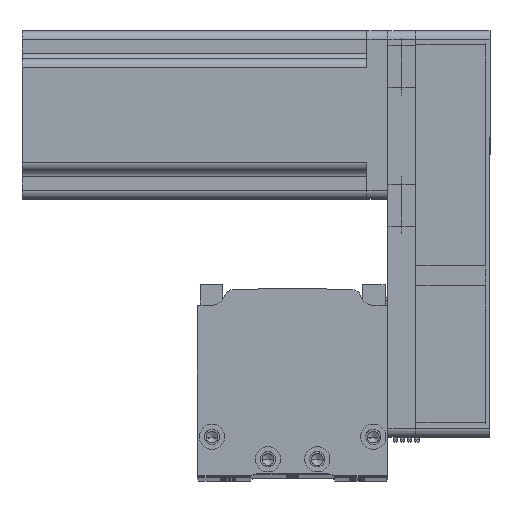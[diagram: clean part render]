
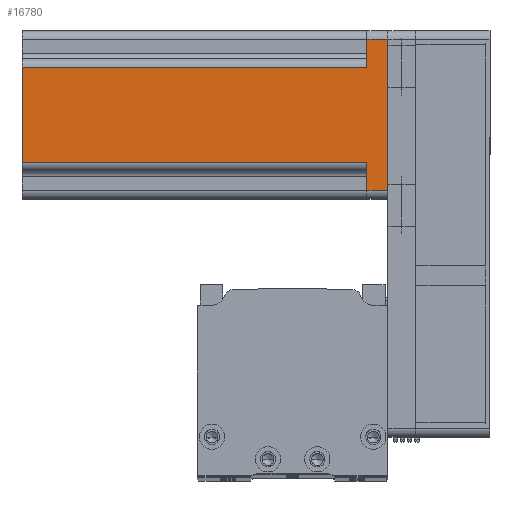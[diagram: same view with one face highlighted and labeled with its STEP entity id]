
A CAD part, top view. The second image highlights one B-rep face of the part: STEP entity #16780.
In plain terms, the highlighted planar face has unit normal (0, 0, 1) as drawn and (0, -1, 0) by its records, which use the part's own axes.
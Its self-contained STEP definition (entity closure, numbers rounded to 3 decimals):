
#257 = EDGE_CURVE ( 'NONE', #21998, #36566, #22057, .T. ) ;
#1592 = LINE ( 'NONE', #21651, #31146 ) ;
#2340 = VECTOR ( 'NONE', #36564, 1000. ) ;
#2624 = ORIENTED_EDGE ( 'NONE', *, *, #27241, .T. ) ;
#3370 = VERTEX_POINT ( 'NONE', #20768 ) ;
#4087 = LINE ( 'NONE', #12989, #18099 ) ;
#4634 = VECTOR ( 'NONE', #40220, 1000. ) ;
#4841 = LINE ( 'NONE', #5375, #24602 ) ;
#5375 = CARTESIAN_POINT ( 'NONE',  ( 27., -30., 130.7 ) ) ;
#5923 = VECTOR ( 'NONE', #44656, 1000. ) ;
#6303 = ORIENTED_EDGE ( 'NONE', *, *, #44527, .T. ) ;
#6307 = VERTEX_POINT ( 'NONE', #7003 ) ;
#6370 = CARTESIAN_POINT ( 'NONE',  ( 30., -30., 130.7 ) ) ;
#6379 = VERTEX_POINT ( 'NONE', #14973 ) ;
#7003 = CARTESIAN_POINT ( 'NONE',  ( -17., -30., 130.7 ) ) ;
#8046 = VECTOR ( 'NONE', #24655, 1000. ) ;
#9403 = EDGE_CURVE ( 'NONE', #45607, #3370, #24395, .T. ) ;
#10631 = CARTESIAN_POINT ( 'NONE',  ( 30., -30., 0. ) ) ;
#10667 = CARTESIAN_POINT ( 'NONE',  ( 17., -30., 130.7 ) ) ;
#11648 = VERTEX_POINT ( 'NONE', #29465 ) ;
#12989 = CARTESIAN_POINT ( 'NONE',  ( -20., -30., 7.5 ) ) ;
#13369 = LINE ( 'NONE', #6370, #41711 ) ;
#13542 = FACE_OUTER_BOUND ( 'NONE', #25306, .T. ) ;
#13666 = ORIENTED_EDGE ( 'NONE', *, *, #46544, .T. ) ;
#14327 = VERTEX_POINT ( 'NONE', #15039 ) ;
#14534 = ORIENTED_EDGE ( 'NONE', *, *, #29203, .F. ) ;
#14973 = CARTESIAN_POINT ( 'NONE',  ( 27., -30., 7.5 ) ) ;
#15039 = CARTESIAN_POINT ( 'NONE',  ( -27., -30., 7.5 ) ) ;
#16776 = DIRECTION ( 'NONE',  ( 0., 1., 0. ) ) ;
#16780 = ADVANCED_FACE ( 'NONE', ( #13542 ), #31123, .F. ) ;
#18099 = VECTOR ( 'NONE', #46435, 1000. ) ;
#19114 = EDGE_CURVE ( 'NONE', #14327, #11648, #4087, .T. ) ;
#20422 = ORIENTED_EDGE ( 'NONE', *, *, #9403, .T. ) ;
#20768 = CARTESIAN_POINT ( 'NONE',  ( 27., -30., 0. ) ) ;
#20930 = CARTESIAN_POINT ( 'NONE',  ( 20., -30., 7.5 ) ) ;
#21262 = ORIENTED_EDGE ( 'NONE', *, *, #19114, .F. ) ;
#21651 = CARTESIAN_POINT ( 'NONE',  ( -17., -30., 130.7 ) ) ;
#21998 = VERTEX_POINT ( 'NONE', #43133 ) ;
#22057 = LINE ( 'NONE', #10667, #2340 ) ;
#22262 = CARTESIAN_POINT ( 'NONE',  ( -27., -30., 0. ) ) ;
#24284 = ORIENTED_EDGE ( 'NONE', *, *, #257, .T. ) ;
#24395 = LINE ( 'NONE', #10631, #4634 ) ;
#24602 = VECTOR ( 'NONE', #38784, 1000. ) ;
#24655 = DIRECTION ( 'NONE',  ( -1., 0., 0. ) ) ;
#25306 = EDGE_LOOP ( 'NONE', ( #14534, #13666, #21262, #2624, #20422, #6303, #45348, #24284 ) ) ;
#27241 = EDGE_CURVE ( 'NONE', #14327, #45607, #34315, .T. ) ;
#27740 = LINE ( 'NONE', #20930, #8046 ) ;
#29203 = EDGE_CURVE ( 'NONE', #6307, #36566, #13369, .T. ) ;
#29465 = CARTESIAN_POINT ( 'NONE',  ( -17., -30., 7.5 ) ) ;
#31123 = PLANE ( 'NONE',  #38266 ) ;
#31146 = VECTOR ( 'NONE', #43887, 1000. ) ;
#32274 = DIRECTION ( 'NONE',  ( 1., 0., 0. ) ) ;
#34315 = LINE ( 'NONE', #41019, #5923 ) ;
#36564 = DIRECTION ( 'NONE',  ( 0., 0., 1. ) ) ;
#36566 = VERTEX_POINT ( 'NONE', #44494 ) ;
#38266 = AXIS2_PLACEMENT_3D ( 'NONE', #38942, #16776, #42667 ) ;
#38784 = DIRECTION ( 'NONE',  ( 0., 0., 1. ) ) ;
#38942 = CARTESIAN_POINT ( 'NONE',  ( 30., -30., 130.7 ) ) ;
#40220 = DIRECTION ( 'NONE',  ( 1., 0., 0. ) ) ;
#41019 = CARTESIAN_POINT ( 'NONE',  ( -27., -30., 130.7 ) ) ;
#41711 = VECTOR ( 'NONE', #32274, 1000. ) ;
#42667 = DIRECTION ( 'NONE',  ( -1., 0., 0. ) ) ;
#43133 = CARTESIAN_POINT ( 'NONE',  ( 17., -30., 7.5 ) ) ;
#43414 = EDGE_CURVE ( 'NONE', #6379, #21998, #27740, .T. ) ;
#43887 = DIRECTION ( 'NONE',  ( 0., 0., -1. ) ) ;
#44494 = CARTESIAN_POINT ( 'NONE',  ( 17., -30., 130.7 ) ) ;
#44527 = EDGE_CURVE ( 'NONE', #3370, #6379, #4841, .T. ) ;
#44656 = DIRECTION ( 'NONE',  ( 0., 0., -1. ) ) ;
#45348 = ORIENTED_EDGE ( 'NONE', *, *, #43414, .T. ) ;
#45607 = VERTEX_POINT ( 'NONE', #22262 ) ;
#46435 = DIRECTION ( 'NONE',  ( 1., 0., 0. ) ) ;
#46544 = EDGE_CURVE ( 'NONE', #6307, #11648, #1592, .T. ) ;
